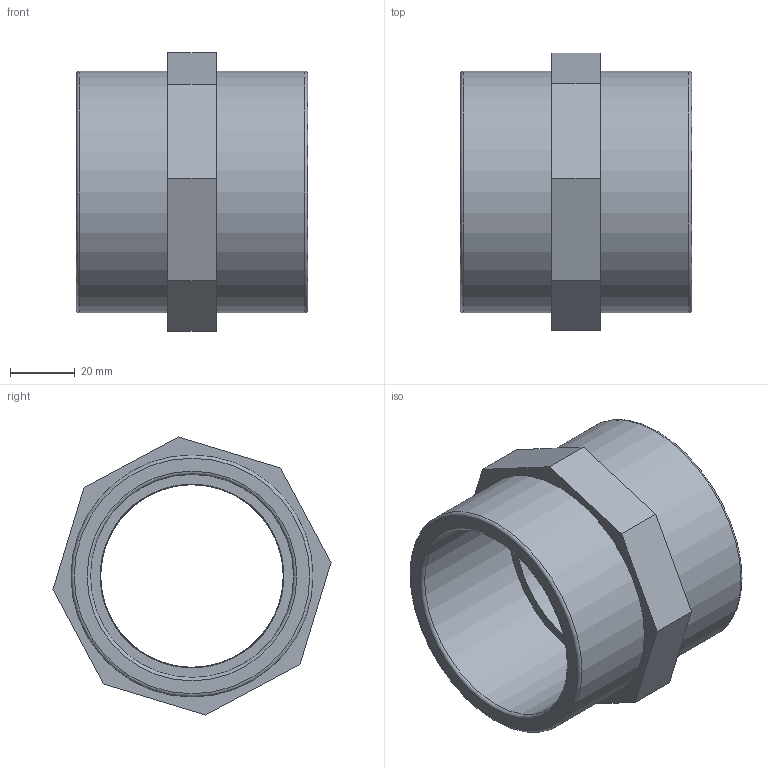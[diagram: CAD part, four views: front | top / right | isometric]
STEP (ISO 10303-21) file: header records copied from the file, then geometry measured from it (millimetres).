
FILE_DESCRIPTION(/* description */ (''),/* implementation_level */ '2;1');
FILE_NAME(/* name */ 'C:\Users\Gabriele\Desktop\disegni 3D\SO12\SO12063G.ipt.stp',/* time_stamp */ '2017-02-10T09:52:41+01:00',/* author */ ('Eugenio'),/* organization */ (''),/* preprocessor_version */ 'ST-DEVELOPER v16.5',/* originating_system */ 'Autodesk Inventor 2017',/* authorisation */ '');
FILE_SCHEMA (('AUTOMOTIVE_DESIGN { 1 0 10303 214 3 1 1 }'));
Length unit declared in the file: millimetre
Products named in the file (1): SO12063G
Bounding box: 71.7 x 86.18 x 86.18 mm (x, y, z)
Volume: 122684.9 mm3; surface area: 48832.1 mm2
Topology: 2 solids, 2 shells, 33 faces, 73 edges, 48 vertices
Faces by surface type: plane 16, cylinder 7, bspline 6, torus 4
Full cylindrical faces by diameter (mm): 57 x1, 59.61 x2, 63 x1, 75 x2
Entity records: 5797 total; most frequent: CARTESIAN_POINT 5122, ORIENTED_EDGE 122, DIRECTION 116, EDGE_CURVE 61, EDGE_LOOP 51, VERTEX_POINT 46, AXIS2_PLACEMENT_3D 46, FACE_OUTER_BOUND 33
